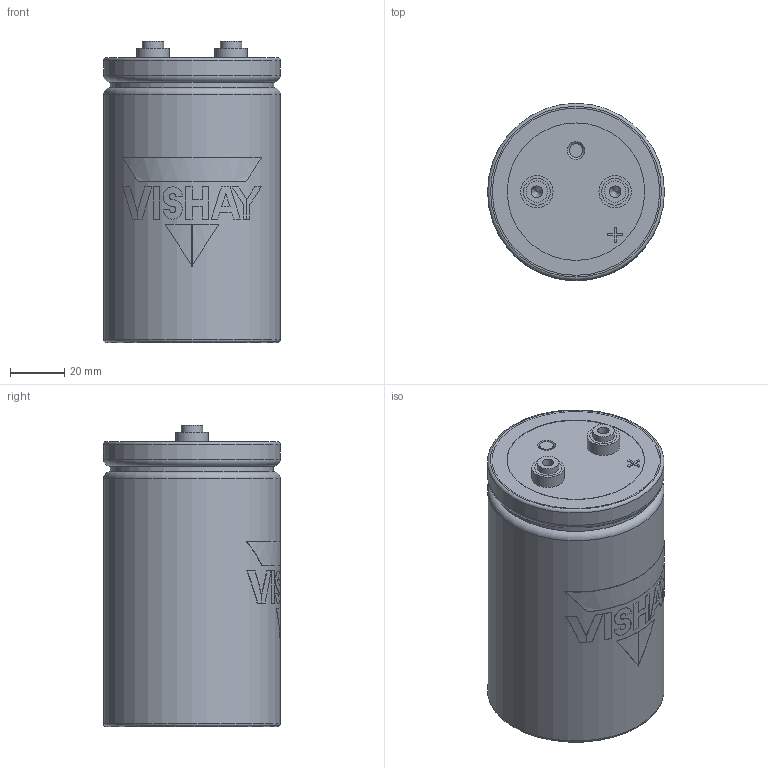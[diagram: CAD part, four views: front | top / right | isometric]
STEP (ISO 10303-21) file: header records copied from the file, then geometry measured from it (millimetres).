
FILE_DESCRIPTION(('FreeCAD Model'),'2;1');
FILE_NAME('C:/Users/tvandesteeg/Documents/Documents/FreeCAD/Stepfiles/ST capacitors/ST_HP_M5_65x105.step','2020-07-02T17:40:56',('Author'),(''), 'Open CASCADE STEP processor 7.3','FreeCAD','Unknown');
FILE_SCHEMA(('AUTOMOTIVE_DESIGN { 1 0 10303 214 1 1 1 1 }'));
Length unit declared in the file: millimetre
Products named in the file (7): VentBody; TerminalBody_(Mirror_#2); TerminalBody; Disc; LogoPrint; CanBody; BottomBody
Bounding box: 65 x 65.1 x 110.7 mm (x, y, z)
Volume: 343933 mm3; surface area: 47710.4 mm2
Topology: 17 solids, 17 shells, 149 faces, 313 edges, 206 vertices
Faces by surface type: plane 93, cylinder 48, torus 5, cone 3
Full cylindrical faces by diameter (mm): 4.2 x2, 5 x2, 7.9 x2, 9.9 x6, 11.9 x2, 50.556 x3, 60 x1, 60.6 x2, 65 x2
Entity records: 10623 total; most frequent: CARTESIAN_POINT 3327, DIRECTION 1204, ORIENTED_EDGE 622, PCURVE 622, DEFINITIONAL_REPRESENTATION 622, LINE 532, VECTOR 532, EDGE_CURVE 311
